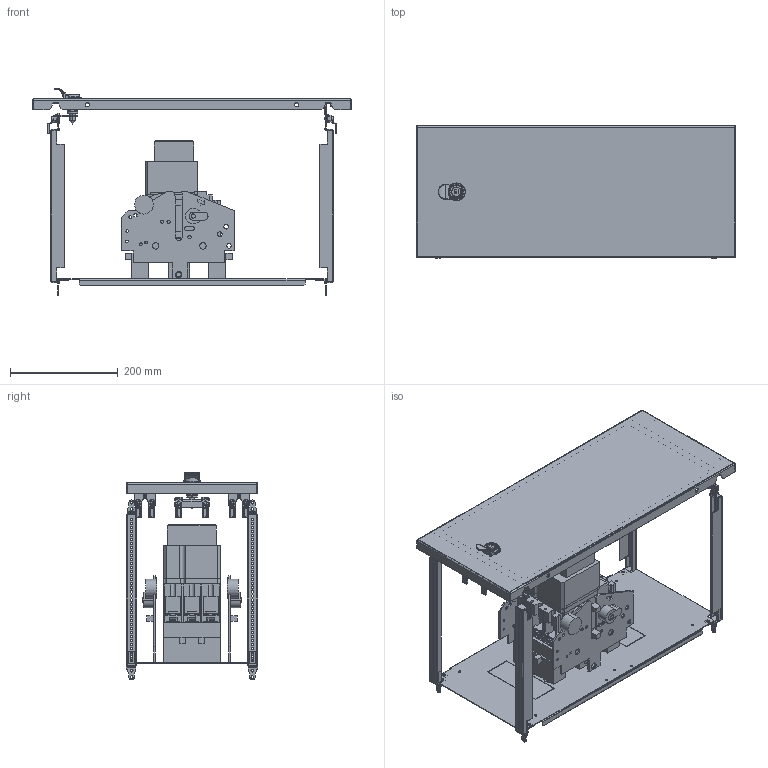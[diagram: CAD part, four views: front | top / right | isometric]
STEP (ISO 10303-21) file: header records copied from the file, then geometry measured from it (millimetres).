
FILE_DESCRIPTION(('CAx-IF Rec.Pracs.---Model Styling and Organization---1.2---2011-12-15','CAx-IF Rec.Pracs.---Geometric and Assembly Validation Properties---4.1---2014-06-16','CAx-IF Rec.Pracs.---PMI Polyline Presentation---2.0---2013-05-24'),'2;1');
FILE_NAME('R5PKEB7H61913 (W-MO).stp','2021-07-29T02:11:46+03:00',(''),(''),'STEP Interface 4.4 by CT CoreTechnologie','3D_Evolution4.4 by CT CoreTechnologie','');
FILE_SCHEMA(('AUTOMOTIVE_DESIGN { 1 0 10303 214 1 1 1 1 }'));
Length unit declared in the file: millimetre
Products named in the file (1): R5PKEB7H61913 (W-MO)
Bounding box: 594 x 245 x 386.9 mm (x, y, z)
Surface area: 1276740.2 mm2 (no closed solid volume)
Topology: 0 solids, 87 shells, 3232 faces, 8953 edges, 5897 vertices
Faces by surface type: plane 1714, cylinder 1159, bspline 359
Entity records: 113667 total; most frequent: CARTESIAN_POINT 29406, ORIENTED_EDGE 17834, DIRECTION 17065, EDGE_CURVE 8920, VECTOR 6015, LINE 6015, VERTEX_POINT 5916, AXIS2_PLACEMENT_3D 5525
